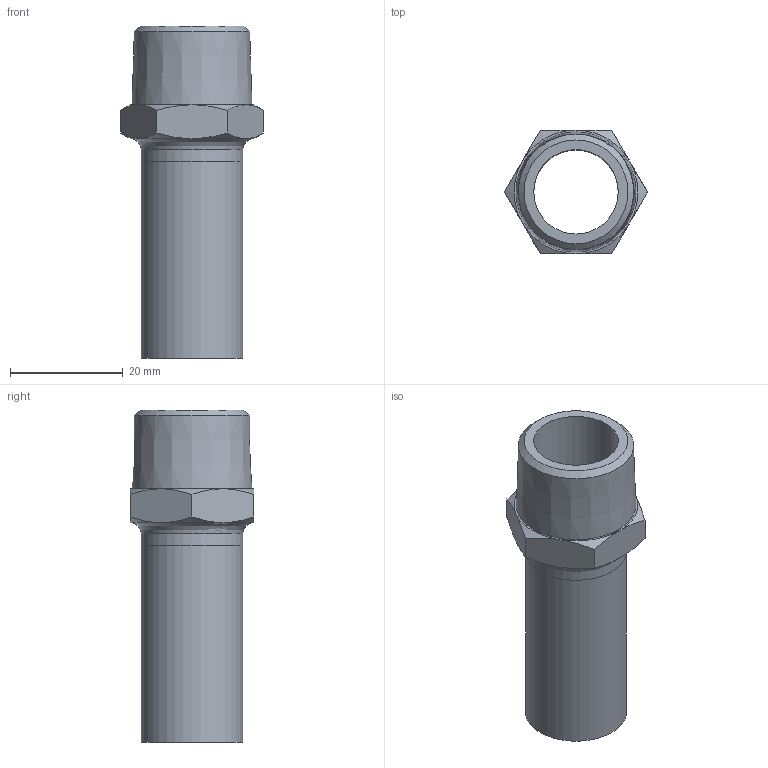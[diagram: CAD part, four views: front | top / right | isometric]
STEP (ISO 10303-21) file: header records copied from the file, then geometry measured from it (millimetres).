
FILE_DESCRIPTION((''),'2;1');
FILE_NAME('G:\Nirosan-Schmiedefeld\Technics\CAD\001 Serie 9.000\018\69280G1812H(0).stp','2018-08-28T08:53:57',('herberg'),(''),'Autodesk Inventor 2009','Autodesk Inventor 2009','');
FILE_SCHEMA(('AUTOMOTIVE_DESIGN { 1 0 10303 214 1 1 1 1 }'));
Length unit declared in the file: millimetre
Products named in the file (3): 69280G1812H(0); 69FXE18P(0); AG1812(1)
Assembly tree (2 placements, depth 2):
  69280G1812H(0)
    69FXE18P(0)
    AG1812(1)
Bounding box: 25.4 x 22 x 59 mm (x, y, z)
Volume: 6805 mm3; surface area: 6849.6 mm2
Topology: 2 solids, 2 shells, 30 faces, 63 edges, 38 vertices
Faces by surface type: cone 14, plane 11, cylinder 3, bspline 2
Full cylindrical faces by diameter (mm): 15 x1, 18 x2
Entity records: 853 total; most frequent: CARTESIAN_POINT 232, DIRECTION 118, ORIENTED_EDGE 106, AXIS2_PLACEMENT_3D 56, EDGE_CURVE 53, EDGE_LOOP 42, VERTEX_POINT 35, FACE_OUTER_BOUND 30
